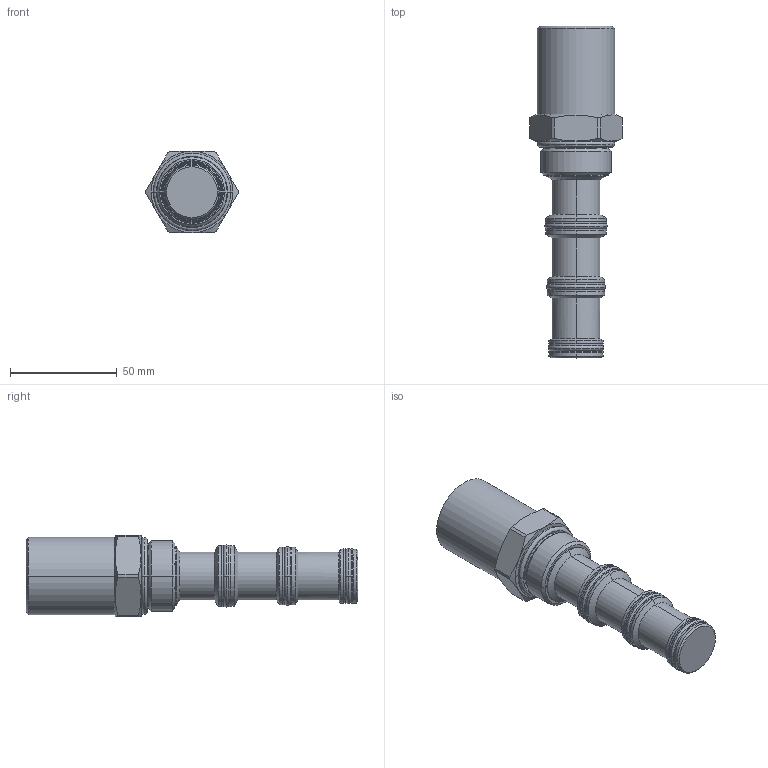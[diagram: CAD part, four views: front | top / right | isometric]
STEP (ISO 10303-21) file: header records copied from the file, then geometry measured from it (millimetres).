
FILE_DESCRIPTION((''),'2;1');
FILE_NAME('5439500_SW0001','2009-01-30T',('jcs'),(''),'PRO/ENGINEER BY PARAMETRIC TECHNOLOGY CORPORATION, 2008010','PRO/ENGINEER BY PARAMETRIC TECHNOLOGY CORPORATION, 2008010','');
FILE_SCHEMA(('CONFIG_CONTROL_DESIGN'));
Length unit declared in the file: inch
Products named in the file (1): 5439500_SW0001
Bounding box: 43.23 x 155.65 x 38.1 mm (x, y, z)
Volume: 111259.3 mm3; surface area: 23838.7 mm2
Topology: 11 solids, 11 shells, 175 faces, 362 edges, 202 vertices
Faces by surface type: cylinder 62, cone 44, revolution 32, plane 21, torus 16
Entity records: 5416 total; most frequent: CARTESIAN_POINT 1635, DIRECTION 824, ORIENTED_EDGE 724, EDGE_CURVE 362, AXIS2_PLACEMENT_3D 343, VERTEX_POINT 202, CIRCLE 200, EDGE_LOOP 188
